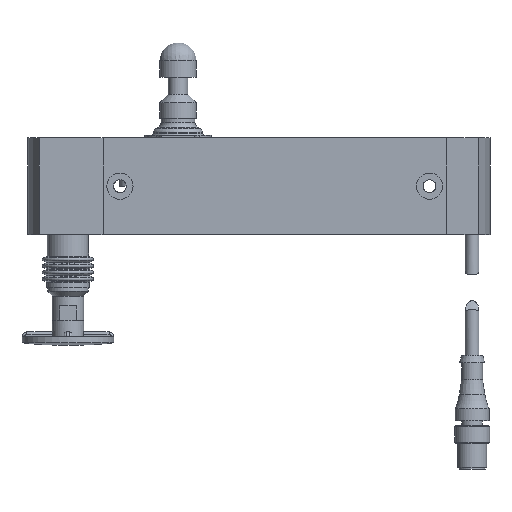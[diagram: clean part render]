
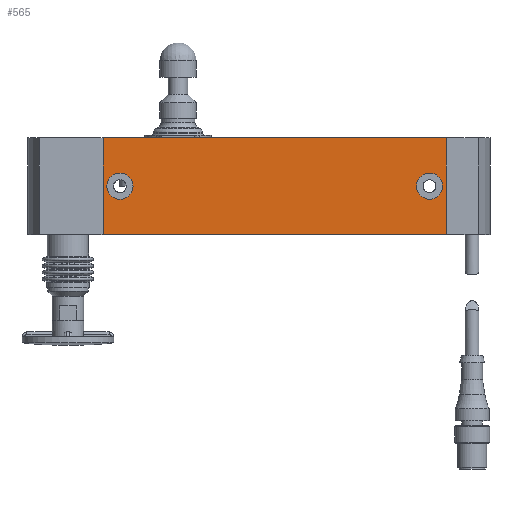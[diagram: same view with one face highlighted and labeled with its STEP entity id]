
A CAD part, left-side view. The second image highlights one B-rep face of the part: STEP entity #565.
In plain terms, the highlighted planar face has unit normal (-1, 0, 0).
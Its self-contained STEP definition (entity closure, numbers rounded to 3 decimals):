
#183=FACE_BOUND('',#1186,.T.);
#184=FACE_BOUND('',#1187,.T.);
#185=FACE_BOUND('',#1188,.T.);
#565=ADVANCED_FACE('NONE',(#183,#184,#185),#842,.F.);
#842=PLANE('',#4524);
#1186=EDGE_LOOP('',(#1990));
#1187=EDGE_LOOP('',(#1991));
#1188=EDGE_LOOP('',(#1992,#1993,#1994,#1995));
#1582=CIRCLE('',#4522,5.4);
#1583=CIRCLE('',#4523,5.4);
#1990=ORIENTED_EDGE('',*,*,#3406,.T.);
#1991=ORIENTED_EDGE('',*,*,#3407,.F.);
#1992=ORIENTED_EDGE('',*,*,#3405,.T.);
#1993=ORIENTED_EDGE('',*,*,#3397,.F.);
#1994=ORIENTED_EDGE('',*,*,#3408,.F.);
#1995=ORIENTED_EDGE('',*,*,#3391,.T.);
#2952=VERTEX_POINT('',#6475);
#2953=VERTEX_POINT('',#6477);
#2955=VERTEX_POINT('',#6483);
#2958=VERTEX_POINT('',#6488);
#2964=VERTEX_POINT('',#6507);
#2965=VERTEX_POINT('',#6509);
#3391=EDGE_CURVE('NONE',#2953,#2952,#3910,.T.);
#3397=EDGE_CURVE('NONE',#2958,#2955,#3916,.T.);
#3405=EDGE_CURVE('',#2952,#2955,#3919,.T.);
#3406=EDGE_CURVE('NONE',#2964,#2964,#1582,.T.);
#3407=EDGE_CURVE('NONE',#2965,#2965,#1583,.T.);
#3408=EDGE_CURVE('NONE',#2953,#2958,#3920,.T.);
#3910=LINE('',#6476,#4215);
#3916=LINE('',#6489,#4221);
#3919=LINE('',#6504,#4224);
#3920=LINE('',#6510,#4225);
#4215=VECTOR('',#5181,1.);
#4221=VECTOR('',#5189,1.);
#4224=VECTOR('',#5206,1.);
#4225=VECTOR('',#5213,1.);
#4522=AXIS2_PLACEMENT_3D('',#6506,#5209,#5210);
#4523=AXIS2_PLACEMENT_3D('',#6508,#5211,#5212);
#4524=AXIS2_PLACEMENT_3D('',#6511,#5214,#5215);
#5181=DIRECTION('',(0.,0.,-1.));
#5189=DIRECTION('',(0.,0.,-1.));
#5206=DIRECTION('',(0.,-1.,0.));
#5209=DIRECTION('',(1.,0.,0.));
#5210=DIRECTION('',(0.,1.,0.));
#5211=DIRECTION('',(-1.,0.,0.));
#5212=DIRECTION('',(0.,1.,0.));
#5213=DIRECTION('',(0.,-1.,0.));
#5214=DIRECTION('',(1.,0.,0.));
#5215=DIRECTION('',(0.,1.,0.));
#6475=CARTESIAN_POINT('',(-20.,71.,-20.));
#6476=CARTESIAN_POINT('',(-20.,71.,20.));
#6477=CARTESIAN_POINT('',(-20.,71.,20.));
#6483=CARTESIAN_POINT('',(-20.,-71.,-20.));
#6488=CARTESIAN_POINT('',(-20.,-71.,20.));
#6489=CARTESIAN_POINT('',(-20.,-71.,20.));
#6504=CARTESIAN_POINT('',(-20.,-71.,-20.));
#6506=CARTESIAN_POINT('',(-20.,64.,0.));
#6507=CARTESIAN_POINT('',(-20.,69.4,0.));
#6508=CARTESIAN_POINT('',(-20.,-64.,0.));
#6509=CARTESIAN_POINT('',(-20.,-58.6,0.));
#6510=CARTESIAN_POINT('',(-20.,-71.,20.));
#6511=CARTESIAN_POINT('',(-20.,-71.,20.));
